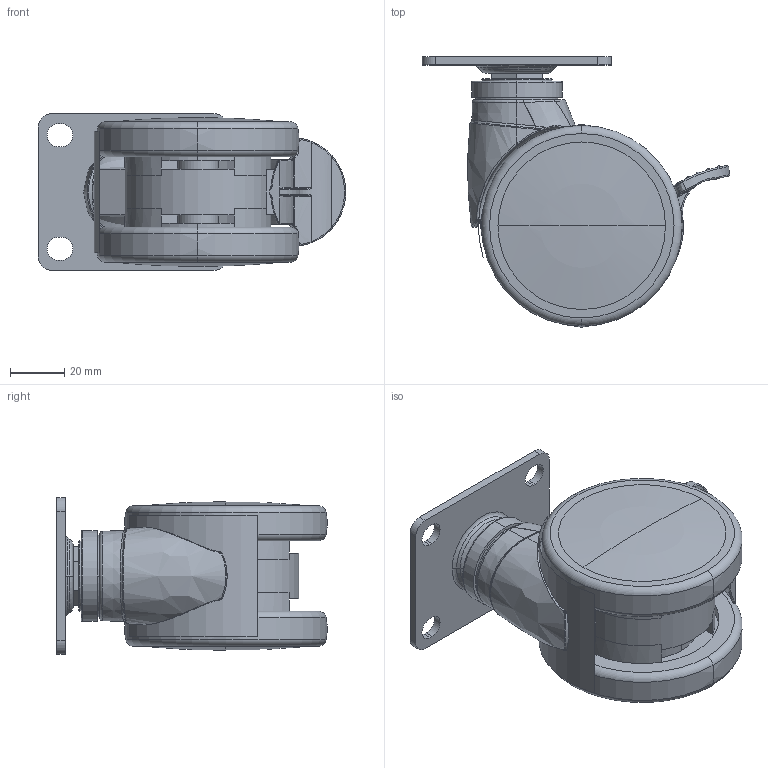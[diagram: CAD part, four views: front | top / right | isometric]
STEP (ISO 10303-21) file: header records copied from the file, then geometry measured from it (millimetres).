
FILE_DESCRIPTION((''),'2;1');
FILE_NAME('E19023H-57_ASM','2022-09-08T',('lenovo'),(''),'PRO/ENGINEER BY PARAMETRIC TECHNOLOGY CORPORATION, 2010280','PRO/ENGINEER BY PARAMETRIC TECHNOLOGY CORPORATION, 2010280','');
FILE_SCHEMA(('CONFIG_CONTROL_DESIGN'));
Length unit declared in the file: millimetre
Products named in the file (10): YILIAOKE; SHASHOU; GAIZI; E1913-052; ____1-1235; ____; ____1-4243; 11_ASM; E1913-201; E19023H-57_ASM
Assembly tree (10 placements, depth 3):
  E19023H-57_ASM
    YILIAOKE
    SHASHOU
    GAIZI
    E1913-052
    11_ASM  x2
      ____1-1235
      ____
      ____1-4243
    E1913-201
Bounding box: 113.76 x 99.95 x 58 mm (x, y, z)
Volume: 191807.6 mm3; surface area: 99884.2 mm2
Topology: 12 solids, 19 shells, 611 faces, 1442 edges, 896 vertices
Faces by surface type: bspline 179, plane 150, cylinder 118, torus 105, cone 37, sphere 16, extrusion 6
Entity records: 25492 total; most frequent: CARTESIAN_POINT 13833, ORIENTED_EDGE 2528, DIRECTION 2174, EDGE_CURVE 1285, AXIS2_PLACEMENT_3D 923, VERTEX_POINT 804, EDGE_LOOP 585, CIRCLE 541
